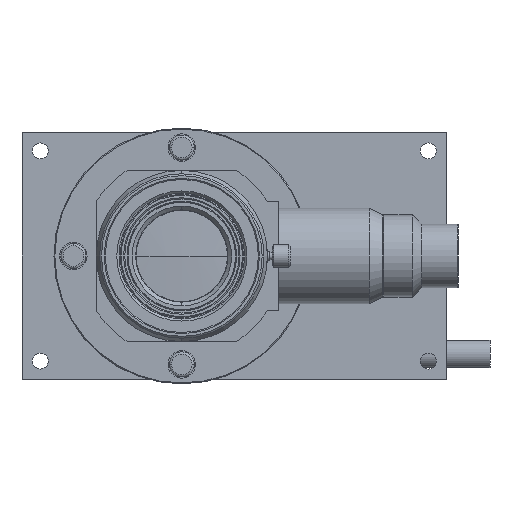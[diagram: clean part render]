
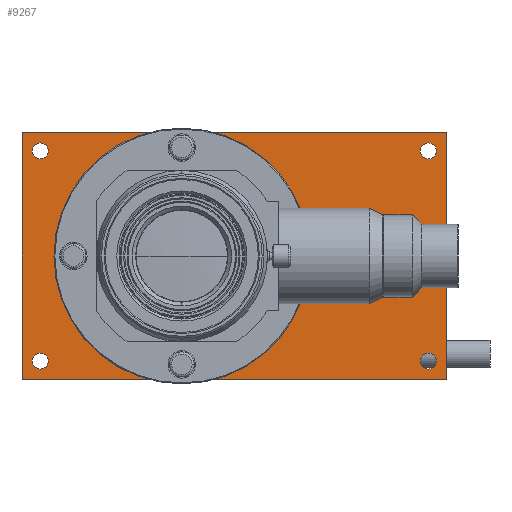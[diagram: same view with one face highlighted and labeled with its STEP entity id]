
A CAD part, left-side view. The second image highlights one B-rep face of the part: STEP entity #9267.
In plain terms, the highlighted planar face has unit normal (-1, 0, 0).
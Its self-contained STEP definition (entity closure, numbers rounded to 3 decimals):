
#351 = CARTESIAN_POINT ( 'NONE',  ( -141.219, 0., 0. ) ) ;
#357 = CIRCLE ( 'NONE', #9490, 1.75 ) ;
#392 = CARTESIAN_POINT ( 'NONE',  ( -141.219, -58., 27. ) ) ;
#448 = EDGE_CURVE ( 'NONE', #9204, #3321, #10807, .T. ) ;
#474 = AXIS2_PLACEMENT_3D ( 'NONE', #10331, #4951, #11228 ) ;
#755 = CIRCLE ( 'NONE', #4592, 1.75 ) ;
#781 = CARTESIAN_POINT ( 'NONE',  ( -141.219, -58., -27. ) ) ;
#782 = EDGE_LOOP ( 'NONE', ( #10579, #2120 ) ) ;
#824 = ORIENTED_EDGE ( 'NONE', *, *, #448, .F. ) ;
#867 = DIRECTION ( 'NONE',  ( 0., 1., 0. ) ) ;
#874 = EDGE_LOOP ( 'NONE', ( #8527, #824, #10707, #4964 ) ) ;
#1240 = DIRECTION ( 'NONE',  ( 0., 0., -1. ) ) ;
#1259 = ORIENTED_EDGE ( 'NONE', *, *, #4104, .T. ) ;
#1321 = DIRECTION ( 'NONE',  ( 0., 0., -1. ) ) ;
#1419 = CARTESIAN_POINT ( 'NONE',  ( -141.219, -54., 24.75 ) ) ;
#1497 = ORIENTED_EDGE ( 'NONE', *, *, #7747, .T. ) ;
#1500 = CARTESIAN_POINT ( 'NONE',  ( -141.219, -54., -24.75 ) ) ;
#1576 = LINE ( 'NONE', #10700, #6341 ) ;
#1612 = VERTEX_POINT ( 'NONE', #3579 ) ;
#1737 = VERTEX_POINT ( 'NONE', #2171 ) ;
#1762 = CIRCLE ( 'NONE', #7967, 18.6 ) ;
#1925 = CARTESIAN_POINT ( 'NONE',  ( -141.219, -54., -21.25 ) ) ;
#2049 = CARTESIAN_POINT ( 'NONE',  ( -141.219, 31., -23. ) ) ;
#2052 = EDGE_CURVE ( 'NONE', #9703, #10475, #5243, .T. ) ;
#2120 = ORIENTED_EDGE ( 'NONE', *, *, #3703, .T. ) ;
#2171 = CARTESIAN_POINT ( 'NONE',  ( -141.219, -54., 21.25 ) ) ;
#2222 = DIRECTION ( 'NONE',  ( 1., 0., 0. ) ) ;
#2274 = CARTESIAN_POINT ( 'NONE',  ( -141.219, 0., 0. ) ) ;
#2332 = CARTESIAN_POINT ( 'NONE',  ( -141.219, -54., 23. ) ) ;
#2509 = CIRCLE ( 'NONE', #2849, 1.75 ) ;
#2755 = CARTESIAN_POINT ( 'NONE',  ( -141.219, 31., 23. ) ) ;
#2849 = AXIS2_PLACEMENT_3D ( 'NONE', #2332, #8622, #3230 ) ;
#2932 = DIRECTION ( 'NONE',  ( 0., 0., -1. ) ) ;
#2937 = EDGE_LOOP ( 'NONE', ( #6976, #1497 ) ) ;
#2956 = DIRECTION ( 'NONE',  ( 1., 0., 0. ) ) ;
#3007 = PLANE ( 'NONE',  #8379 ) ;
#3017 = DIRECTION ( 'NONE',  ( 1., 0., 0. ) ) ;
#3110 = CARTESIAN_POINT ( 'NONE',  ( -141.219, -58., 27. ) ) ;
#3142 = EDGE_LOOP ( 'NONE', ( #4446, #11160 ) ) ;
#3175 = DIRECTION ( 'NONE',  ( 0., 0., -1. ) ) ;
#3230 = DIRECTION ( 'NONE',  ( 0., 0., -1. ) ) ;
#3321 = VERTEX_POINT ( 'NONE', #7554 ) ;
#3372 = EDGE_CURVE ( 'NONE', #5576, #6554, #8000, .T. ) ;
#3420 = DIRECTION ( 'NONE',  ( 0., 0., 1. ) ) ;
#3506 = VECTOR ( 'NONE', #1321, 1000. ) ;
#3579 = CARTESIAN_POINT ( 'NONE',  ( -141.219, 0., -18.6 ) ) ;
#3606 = ORIENTED_EDGE ( 'NONE', *, *, #4137, .T. ) ;
#3653 = VECTOR ( 'NONE', #3420, 1000. ) ;
#3667 = DIRECTION ( 'NONE',  ( 0., 0., -1. ) ) ;
#3703 = EDGE_CURVE ( 'NONE', #4771, #7637, #11213, .T. ) ;
#4104 = EDGE_CURVE ( 'NONE', #10290, #1737, #7560, .T. ) ;
#4137 = EDGE_CURVE ( 'NONE', #1737, #10290, #2509, .T. ) ;
#4262 = VECTOR ( 'NONE', #867, 1000. ) ;
#4329 = DIRECTION ( 'NONE',  ( 1., 0., 0. ) ) ;
#4360 = FACE_BOUND ( 'NONE', #3142, .T. ) ;
#4410 = CARTESIAN_POINT ( 'NONE',  ( -141.219, 35., -27. ) ) ;
#4446 = ORIENTED_EDGE ( 'NONE', *, *, #6921, .T. ) ;
#4566 = CARTESIAN_POINT ( 'NONE',  ( -141.219, 35., -27. ) ) ;
#4592 = AXIS2_PLACEMENT_3D ( 'NONE', #8399, #3017, #9309 ) ;
#4641 = FACE_BOUND ( 'NONE', #9971, .T. ) ;
#4771 = VERTEX_POINT ( 'NONE', #1925 ) ;
#4808 = DIRECTION ( 'NONE',  ( 1., 0., 0. ) ) ;
#4951 = DIRECTION ( 'NONE',  ( 1., 0., 0. ) ) ;
#4964 = ORIENTED_EDGE ( 'NONE', *, *, #3372, .F. ) ;
#5243 = CIRCLE ( 'NONE', #10964, 1.75 ) ;
#5339 = ORIENTED_EDGE ( 'NONE', *, *, #2052, .T. ) ;
#5576 = VERTEX_POINT ( 'NONE', #392 ) ;
#5812 = CARTESIAN_POINT ( 'NONE',  ( -141.219, 31., 21.25 ) ) ;
#6078 = EDGE_CURVE ( 'NONE', #10475, #9703, #8221, .T. ) ;
#6341 = VECTOR ( 'NONE', #7997, 1000. ) ;
#6554 = VERTEX_POINT ( 'NONE', #781 ) ;
#6583 = CARTESIAN_POINT ( 'NONE',  ( -141.219, 0., 0. ) ) ;
#6616 = DIRECTION ( 'NONE',  ( 1., 0., 0. ) ) ;
#6624 = VERTEX_POINT ( 'NONE', #11602 ) ;
#6666 = LINE ( 'NONE', #4410, #4262 ) ;
#6771 = FACE_OUTER_BOUND ( 'NONE', #874, .T. ) ;
#6921 = EDGE_CURVE ( 'NONE', #6624, #1612, #1762, .T. ) ;
#6976 = ORIENTED_EDGE ( 'NONE', *, *, #9355, .T. ) ;
#7389 = EDGE_LOOP ( 'NONE', ( #3606, #1259 ) ) ;
#7554 = CARTESIAN_POINT ( 'NONE',  ( -141.219, 35., 27. ) ) ;
#7560 = CIRCLE ( 'NONE', #474, 1.75 ) ;
#7612 = CARTESIAN_POINT ( 'NONE',  ( -141.219, -54., -23. ) ) ;
#7637 = VERTEX_POINT ( 'NONE', #1500 ) ;
#7747 = EDGE_CURVE ( 'NONE', #10247, #10229, #357, .T. ) ;
#7760 = CARTESIAN_POINT ( 'NONE',  ( -141.219, 31., -24.75 ) ) ;
#7825 = EDGE_CURVE ( 'NONE', #6554, #9204, #6666, .T. ) ;
#7967 = AXIS2_PLACEMENT_3D ( 'NONE', #2274, #8557, #3175 ) ;
#7997 = DIRECTION ( 'NONE',  ( 0., -1., 0. ) ) ;
#8000 = LINE ( 'NONE', #3110, #3506 ) ;
#8144 = AXIS2_PLACEMENT_3D ( 'NONE', #351, #6616, #1240 ) ;
#8221 = CIRCLE ( 'NONE', #10065, 1.75 ) ;
#8324 = DIRECTION ( 'NONE',  ( 1., 0., 0. ) ) ;
#8351 = CARTESIAN_POINT ( 'NONE',  ( -141.219, 31., -23. ) ) ;
#8379 = AXIS2_PLACEMENT_3D ( 'NONE', #6583, #4808, #11088 ) ;
#8399 = CARTESIAN_POINT ( 'NONE',  ( -141.219, -54., -23. ) ) ;
#8515 = DIRECTION ( 'NONE',  ( 0., 0., -1. ) ) ;
#8527 = ORIENTED_EDGE ( 'NONE', *, *, #9145, .F. ) ;
#8557 = DIRECTION ( 'NONE',  ( 1., 0., 0. ) ) ;
#8622 = DIRECTION ( 'NONE',  ( 1., 0., 0. ) ) ;
#8810 = EDGE_CURVE ( 'NONE', #7637, #4771, #755, .T. ) ;
#8812 = CARTESIAN_POINT ( 'NONE',  ( -141.219, 35., 27. ) ) ;
#9000 = CIRCLE ( 'NONE', #8144, 18.6 ) ;
#9056 = DIRECTION ( 'NONE',  ( 1., 0., 0. ) ) ;
#9145 = EDGE_CURVE ( 'NONE', #3321, #5576, #1576, .T. ) ;
#9147 = FACE_BOUND ( 'NONE', #7389, .T. ) ;
#9204 = VERTEX_POINT ( 'NONE', #4566 ) ;
#9253 = DIRECTION ( 'NONE',  ( 0., 0., -1. ) ) ;
#9267 = ADVANCED_FACE ( 'NONE', ( #9433, #4641, #11518, #9147, #6771, #4360 ), #3007, .F. ) ;
#9309 = DIRECTION ( 'NONE',  ( 0., 0., -1. ) ) ;
#9355 = EDGE_CURVE ( 'NONE', #10229, #10247, #10409, .T. ) ;
#9425 = CARTESIAN_POINT ( 'NONE',  ( -141.219, 31., 24.75 ) ) ;
#9433 = FACE_BOUND ( 'NONE', #2937, .T. ) ;
#9490 = AXIS2_PLACEMENT_3D ( 'NONE', #9725, #4329, #10626 ) ;
#9544 = EDGE_CURVE ( 'NONE', #1612, #6624, #9000, .T. ) ;
#9703 = VERTEX_POINT ( 'NONE', #7760 ) ;
#9725 = CARTESIAN_POINT ( 'NONE',  ( -141.219, 31., 23. ) ) ;
#9762 = CARTESIAN_POINT ( 'NONE',  ( -141.219, 31., -21.25 ) ) ;
#9971 = EDGE_LOOP ( 'NONE', ( #5339, #11390 ) ) ;
#10065 = AXIS2_PLACEMENT_3D ( 'NONE', #2049, #8324, #2932 ) ;
#10229 = VERTEX_POINT ( 'NONE', #5812 ) ;
#10247 = VERTEX_POINT ( 'NONE', #9425 ) ;
#10290 = VERTEX_POINT ( 'NONE', #1419 ) ;
#10331 = CARTESIAN_POINT ( 'NONE',  ( -141.219, -54., 23. ) ) ;
#10409 = CIRCLE ( 'NONE', #11376, 1.75 ) ;
#10475 = VERTEX_POINT ( 'NONE', #9762 ) ;
#10579 = ORIENTED_EDGE ( 'NONE', *, *, #8810, .T. ) ;
#10626 = DIRECTION ( 'NONE',  ( 0., 0., -1. ) ) ;
#10700 = CARTESIAN_POINT ( 'NONE',  ( -141.219, 35., 27. ) ) ;
#10707 = ORIENTED_EDGE ( 'NONE', *, *, #7825, .F. ) ;
#10744 = AXIS2_PLACEMENT_3D ( 'NONE', #7612, #2222, #8515 ) ;
#10807 = LINE ( 'NONE', #8812, #3653 ) ;
#10964 = AXIS2_PLACEMENT_3D ( 'NONE', #8351, #2956, #9253 ) ;
#11088 = DIRECTION ( 'NONE',  ( 0., 0., -1. ) ) ;
#11160 = ORIENTED_EDGE ( 'NONE', *, *, #9544, .T. ) ;
#11213 = CIRCLE ( 'NONE', #10744, 1.75 ) ;
#11228 = DIRECTION ( 'NONE',  ( 0., 0., -1. ) ) ;
#11376 = AXIS2_PLACEMENT_3D ( 'NONE', #2755, #9056, #3667 ) ;
#11390 = ORIENTED_EDGE ( 'NONE', *, *, #6078, .T. ) ;
#11518 = FACE_BOUND ( 'NONE', #782, .T. ) ;
#11602 = CARTESIAN_POINT ( 'NONE',  ( -141.219, 0., 18.6 ) ) ;
